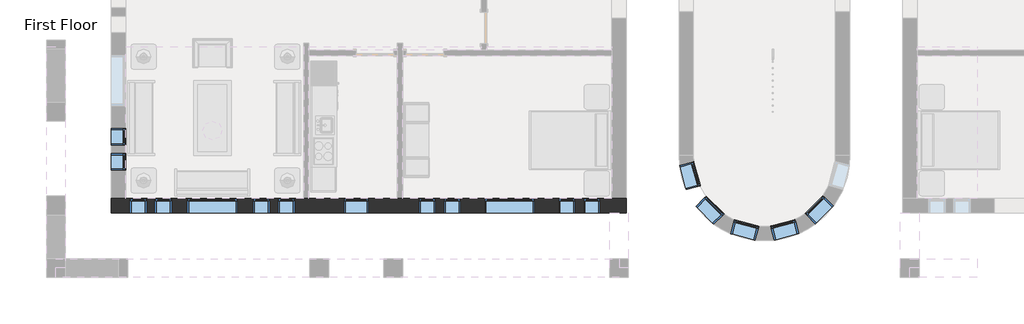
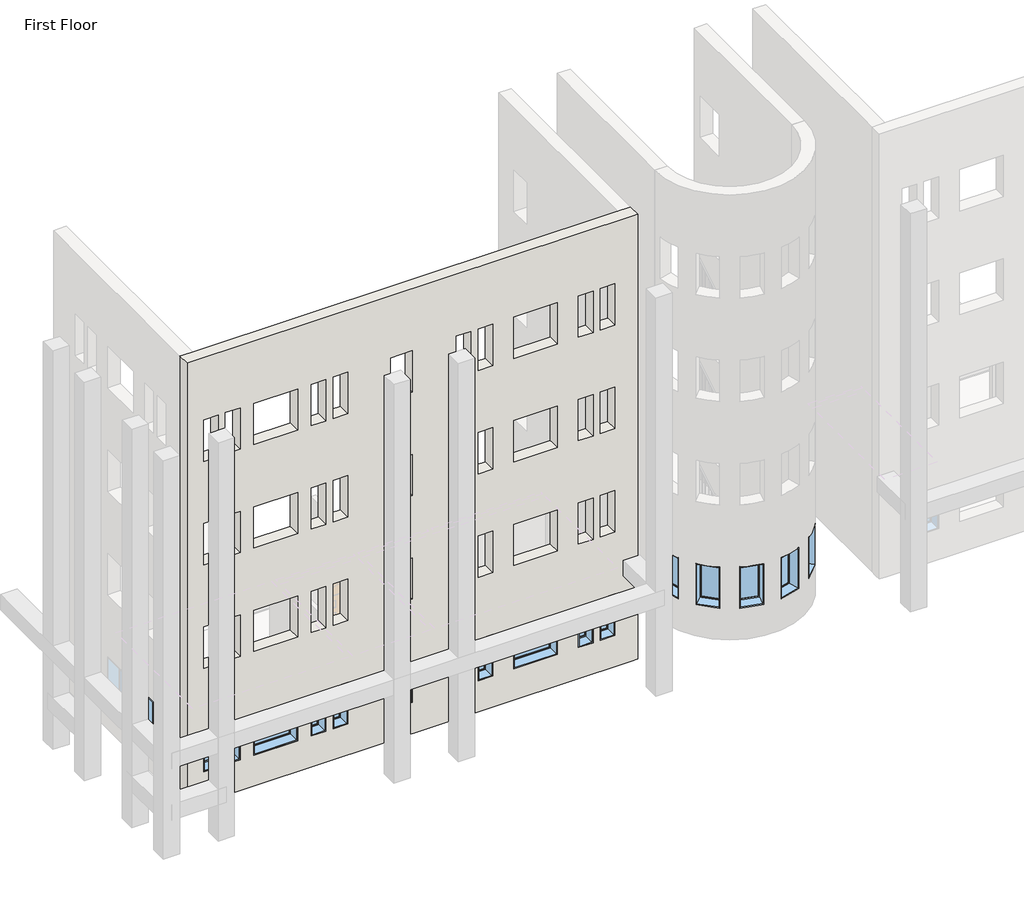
# One storey, part 1 of 21: 18 windows, 1 wall.
"""IFC4 building model written with IfcOpenShell, lengths in millimetres."""

from ifc_helpers import new_model, si_unit, origin, place, context, project, spatial, faceted_brep, transform, mapped, element, save
from components import window_da97879f, window_d61ef850, window_60baf983, window_ed80354a, window_6eb97611

model = new_model("IFC4")

# Units and contexts
model_context = context("Model", 3, world=origin())
ifc_project = project(units=[si_unit("LENGTHUNIT", "METRE", prefix="MILLI")], contexts=[model_context])

# Site, building, storey
site = spatial("IfcSite", under=ifc_project)
building = spatial("IfcBuilding", under=site)
storey = spatial("IfcBuildingStorey", under=building, Name="First Floor", Elevation=0.0)

# Wall
placement = place(None, origin())
element("IfcWall", 1, ObjectType="Exterior - Brick on Mtl. Stud", at=placement, inside=storey, context=model_context, shape_type="Brep", body=[
    faceted_brep([(-18300.6714563, -33878.3558133, 13106.4), (-18653.0964563, -33878.3558133, 13106.4), (-30492.6714563, -33878.3558133, 13106.4), (-30845.0964563, -33878.3558133, 13106.4), (-30845.0964563, -34230.7808133, 13106.4), (-18300.6714563, -34230.7808133, 13106.4), (-18300.6714563, -33878.3558133, 0.0), (-18487.9964563, -33878.3558133, 0.0), (-18653.0964563, -33878.3558133, 0.0), (-23747.3839563, -33878.3558133, 0.0), (-23874.3839563, -33878.3558133, 0.0), (-26033.3839563, -33878.3558133, 0.0), (-26160.3839563, -33878.3558133, 0.0), (-30492.6714563, -33878.3558133, 0.0), (-30657.7714563, -33878.3558133, 0.0), (-30845.0964563, -33878.3558133, 0.0), (-29779.8839563, -33878.3558133, 8229.6), (-29779.8839563, -33878.3558133, 7010.4), (-29373.4839563, -33878.3558133, 7010.4), (-29373.4839563, -33878.3558133, 8229.6), (-30389.4839563, -33878.3558133, 8229.6), (-30389.4839563, -33878.3558133, 7010.4), (-29983.0839563, -33878.3558133, 7010.4), (-29983.0839563, -33878.3558133, 8229.6), (-26985.8839563, -33878.3558133, 8229.6), (-27392.2839563, -33878.3558133, 8229.6), (-27392.2839563, -33878.3558133, 7010.4), (-26985.8839563, -33878.3558133, 7010.4), (-26376.2839563, -33878.3558133, 8229.6), (-26782.6839563, -33878.3558133, 8229.6), (-26782.6839563, -33878.3558133, 7010.4), (-26376.2839563, -33878.3558133, 7010.4), (-22744.0839563, -33878.3558133, 8229.6), (-22744.0839563, -33878.3558133, 7010.4), (-22337.6839563, -33878.3558133, 7010.4), (-22337.6839563, -33878.3558133, 8229.6), (-23353.6839563, -33878.3558133, 8229.6), (-23353.6839563, -33878.3558133, 7010.4), (-22947.2839563, -33878.3558133, 7010.4), (-22947.2839563, -33878.3558133, 8229.6), (-19543.6839563, -33878.3558133, 8229.6), (-19950.0839563, -33878.3558133, 8229.6), (-19950.0839563, -33878.3558133, 7010.4), (-19543.6839563, -33878.3558133, 7010.4), (-18934.0839563, -33878.3558133, 8229.6), (-19340.4839563, -33878.3558133, 8229.6), (-19340.4839563, -33878.3558133, 7010.4), (-18934.0839563, -33878.3558133, 7010.4), (-27773.2839563, -33878.3558133, 8229.6), (-28992.4839563, -33878.3558133, 8229.6), (-28992.4839563, -33878.3558133, 7010.4), (-27773.2839563, -33878.3558133, 7010.4), (-20534.2839563, -33878.3558133, 8229.6), (-21753.4839563, -33878.3558133, 8229.6), (-21753.4839563, -33878.3558133, 7010.4), (-20534.2839563, -33878.3558133, 7010.4), (-24572.8839563, -33878.3558133, 8229.6), (-25182.4839563, -33878.3558133, 8229.6), (-25182.4839563, -33878.3558133, 7010.4), (-24572.8839563, -33878.3558133, 7010.4), (-29779.8839563, -33878.3558133, 5181.6), (-29779.8839563, -33878.3558133, 3962.4), (-29373.4839563, -33878.3558133, 3962.4), (-29373.4839563, -33878.3558133, 5181.6), (-30389.4839563, -33878.3558133, 5181.6), (-30389.4839563, -33878.3558133, 3962.4), (-29983.0839563, -33878.3558133, 3962.4), (-29983.0839563, -33878.3558133, 5181.6), (-26985.8839563, -33878.3558133, 5181.6), (-27392.2839563, -33878.3558133, 5181.6), (-27392.2839563, -33878.3558133, 3962.4), (-26985.8839563, -33878.3558133, 3962.4), (-26376.2839563, -33878.3558133, 5181.6), (-26782.6839563, -33878.3558133, 5181.6), (-26782.6839563, -33878.3558133, 3962.4), (-26376.2839563, -33878.3558133, 3962.4), (-22744.0839563, -33878.3558133, 5181.6), (-22744.0839563, -33878.3558133, 3962.4), (-22337.6839563, -33878.3558133, 3962.4), (-22337.6839563, -33878.3558133, 5181.6), (-23353.6839563, -33878.3558133, 5181.6), (-23353.6839563, -33878.3558133, 3962.4), (-22947.2839563, -33878.3558133, 3962.4), (-22947.2839563, -33878.3558133, 5181.6), (-19543.6839563, -33878.3558133, 5181.6), (-19950.0839563, -33878.3558133, 5181.6), (-19950.0839563, -33878.3558133, 3962.4), (-19543.6839563, -33878.3558133, 3962.4), (-18934.0839563, -33878.3558133, 5181.6), (-19340.4839563, -33878.3558133, 5181.6), (-19340.4839563, -33878.3558133, 3962.4), (-18934.0839563, -33878.3558133, 3962.4), (-27773.2839563, -33878.3558133, 5181.6), (-28992.4839563, -33878.3558133, 5181.6), (-28992.4839563, -33878.3558133, 3962.4), (-27773.2839563, -33878.3558133, 3962.4), (-20534.2839563, -33878.3558133, 5181.6), (-21753.4839563, -33878.3558133, 5181.6), (-21753.4839563, -33878.3558133, 3962.4), (-20534.2839563, -33878.3558133, 3962.4), (-24572.8839563, -33878.3558133, 5181.6), (-25182.4839563, -33878.3558133, 5181.6), (-25182.4839563, -33878.3558133, 3962.4), (-24572.8839563, -33878.3558133, 3962.4), (-29779.8839563, -33878.3558133, 11277.6), (-29779.8839563, -33878.3558133, 10058.4), (-29373.4839563, -33878.3558133, 10058.4), (-29373.4839563, -33878.3558133, 11277.6), (-30389.4839563, -33878.3558133, 11277.6), (-30389.4839563, -33878.3558133, 10058.4), (-29983.0839563, -33878.3558133, 10058.4), (-29983.0839563, -33878.3558133, 11277.6), (-26985.8839563, -33878.3558133, 11277.6), (-27392.2839563, -33878.3558133, 11277.6), (-27392.2839563, -33878.3558133, 10058.4), (-26985.8839563, -33878.3558133, 10058.4), (-26376.2839563, -33878.3558133, 11277.6), (-26782.6839563, -33878.3558133, 11277.6), (-26782.6839563, -33878.3558133, 10058.4), (-26376.2839563, -33878.3558133, 10058.4), (-22744.0839563, -33878.3558133, 11277.6), (-22744.0839563, -33878.3558133, 10058.4), (-22337.6839563, -33878.3558133, 10058.4), (-22337.6839563, -33878.3558133, 11277.6), (-23353.6839563, -33878.3558133, 11277.6), (-23353.6839563, -33878.3558133, 10058.4), (-22947.2839563, -33878.3558133, 10058.4), (-22947.2839563, -33878.3558133, 11277.6), (-19543.6839563, -33878.3558133, 11277.6), (-19950.0839563, -33878.3558133, 11277.6), (-19950.0839563, -33878.3558133, 10058.4), (-19543.6839563, -33878.3558133, 10058.4), (-18934.0839563, -33878.3558133, 11277.6), (-19340.4839563, -33878.3558133, 11277.6), (-19340.4839563, -33878.3558133, 10058.4), (-18934.0839563, -33878.3558133, 10058.4), (-27773.2839563, -33878.3558133, 11277.6), (-28992.4839563, -33878.3558133, 11277.6), (-28992.4839563, -33878.3558133, 10058.4), (-27773.2839563, -33878.3558133, 10058.4), (-20534.2839563, -33878.3558133, 11277.6), (-21753.4839563, -33878.3558133, 11277.6), (-21753.4839563, -33878.3558133, 10058.4), (-20534.2839563, -33878.3558133, 10058.4), (-24572.8839563, -33878.3558133, 11277.6), (-25182.4839563, -33878.3558133, 11277.6), (-25182.4839563, -33878.3558133, 10058.4), (-24572.8839563, -33878.3558133, 10058.4), (-29779.8839563, -33878.3558133, 2133.6), (-29779.8839563, -33878.3558133, 914.4), (-29373.4839563, -33878.3558133, 914.4), (-29373.4839563, -33878.3558133, 2133.6), (-30389.4839563, -33878.3558133, 2133.6), (-30389.4839563, -33878.3558133, 914.4), (-29983.0839563, -33878.3558133, 914.4), (-29983.0839563, -33878.3558133, 2133.6), (-26985.8839563, -33878.3558133, 2133.6), (-27392.2839563, -33878.3558133, 2133.6), (-27392.2839563, -33878.3558133, 914.4), (-26985.8839563, -33878.3558133, 914.4), (-26376.2839563, -33878.3558133, 2133.6), (-26782.6839563, -33878.3558133, 2133.6), (-26782.6839563, -33878.3558133, 914.4), (-26376.2839563, -33878.3558133, 914.4), (-22744.0839563, -33878.3558133, 2133.6), (-22744.0839563, -33878.3558133, 914.4), (-22337.6839563, -33878.3558133, 914.4), (-22337.6839563, -33878.3558133, 2133.6), (-23353.6839563, -33878.3558133, 2133.6), (-23353.6839563, -33878.3558133, 914.4), (-22947.2839563, -33878.3558133, 914.4), (-22947.2839563, -33878.3558133, 2133.6), (-19543.6839563, -33878.3558133, 2133.6), (-19950.0839563, -33878.3558133, 2133.6), (-19950.0839563, -33878.3558133, 914.4), (-19543.6839563, -33878.3558133, 914.4), (-18934.0839563, -33878.3558133, 2133.6), (-19340.4839563, -33878.3558133, 2133.6), (-19340.4839563, -33878.3558133, 914.4), (-18934.0839563, -33878.3558133, 914.4), (-27773.2839563, -33878.3558133, 2133.6), (-28992.4839563, -33878.3558133, 2133.6), (-28992.4839563, -33878.3558133, 914.4), (-27773.2839563, -33878.3558133, 914.4), (-20534.2839563, -33878.3558133, 2133.6), (-21753.4839563, -33878.3558133, 2133.6), (-21753.4839563, -33878.3558133, 914.4), (-20534.2839563, -33878.3558133, 914.4), (-24572.8839563, -33878.3558133, 2133.6), (-25182.4839563, -33878.3558133, 2133.6), (-25182.4839563, -33878.3558133, 914.4), (-24572.8839563, -33878.3558133, 914.4), (-18300.6714563, -34230.7808133, 0.0), (-30845.0964563, -34230.7808133, 0.0), (-30657.7714563, -34230.7808133, 0.0), (-18487.9964563, -34230.7808133, 0.0), (-29779.8839563, -34230.7808133, 8229.6), (-29373.4839563, -34230.7808133, 8229.6), (-29373.4839563, -34230.7808133, 7010.4), (-29779.8839563, -34230.7808133, 7010.4), (-30389.4839563, -34230.7808133, 8229.6), (-29983.0839563, -34230.7808133, 8229.6), (-29983.0839563, -34230.7808133, 7010.4), (-30389.4839563, -34230.7808133, 7010.4), (-26985.8839563, -34230.7808133, 8229.6), (-26985.8839563, -34230.7808133, 7010.4), (-27392.2839563, -34230.7808133, 7010.4), (-27392.2839563, -34230.7808133, 8229.6), (-26376.2839563, -34230.7808133, 8229.6), (-26376.2839563, -34230.7808133, 7010.4), (-26782.6839563, -34230.7808133, 7010.4), (-26782.6839563, -34230.7808133, 8229.6), (-22744.0839563, -34230.7808133, 8229.6), (-22337.6839563, -34230.7808133, 8229.6), (-22337.6839563, -34230.7808133, 7010.4), (-22744.0839563, -34230.7808133, 7010.4), (-23353.6839563, -34230.7808133, 8229.6), (-22947.2839563, -34230.7808133, 8229.6), (-22947.2839563, -34230.7808133, 7010.4), (-23353.6839563, -34230.7808133, 7010.4), (-19543.6839563, -34230.7808133, 8229.6), (-19543.6839563, -34230.7808133, 7010.4), (-19950.0839563, -34230.7808133, 7010.4), (-19950.0839563, -34230.7808133, 8229.6), (-18934.0839563, -34230.7808133, 8229.6), (-18934.0839563, -34230.7808133, 7010.4), (-19340.4839563, -34230.7808133, 7010.4), (-19340.4839563, -34230.7808133, 8229.6), (-27773.2839563, -34230.7808133, 8229.6), (-27773.2839563, -34230.7808133, 7010.4), (-28992.4839563, -34230.7808133, 7010.4), (-28992.4839563, -34230.7808133, 8229.6), (-20534.2839563, -34230.7808133, 8229.6), (-20534.2839563, -34230.7808133, 7010.4), (-21753.4839563, -34230.7808133, 7010.4), (-21753.4839563, -34230.7808133, 8229.6), (-24572.8839563, -34230.7808133, 8229.6), (-24572.8839563, -34230.7808133, 7010.4), (-25182.4839563, -34230.7808133, 7010.4), (-25182.4839563, -34230.7808133, 8229.6), (-29779.8839563, -34230.7808133, 5181.6), (-29373.4839563, -34230.7808133, 5181.6), (-29373.4839563, -34230.7808133, 3962.4), (-29779.8839563, -34230.7808133, 3962.4), (-30389.4839563, -34230.7808133, 5181.6), (-29983.0839563, -34230.7808133, 5181.6), (-29983.0839563, -34230.7808133, 3962.4), (-30389.4839563, -34230.7808133, 3962.4), (-26985.8839563, -34230.7808133, 5181.6), (-26985.8839563, -34230.7808133, 3962.4), (-27392.2839563, -34230.7808133, 3962.4), (-27392.2839563, -34230.7808133, 5181.6), (-26376.2839563, -34230.7808133, 5181.6), (-26376.2839563, -34230.7808133, 3962.4), (-26782.6839563, -34230.7808133, 3962.4), (-26782.6839563, -34230.7808133, 5181.6), (-22744.0839563, -34230.7808133, 5181.6), (-22337.6839563, -34230.7808133, 5181.6), (-22337.6839563, -34230.7808133, 3962.4), (-22744.0839563, -34230.7808133, 3962.4), (-23353.6839563, -34230.7808133, 5181.6), (-22947.2839563, -34230.7808133, 5181.6), (-22947.2839563, -34230.7808133, 3962.4), (-23353.6839563, -34230.7808133, 3962.4), (-19543.6839563, -34230.7808133, 5181.6), (-19543.6839563, -34230.7808133, 3962.4), (-19950.0839563, -34230.7808133, 3962.4), (-19950.0839563, -34230.7808133, 5181.6), (-18934.0839563, -34230.7808133, 5181.6), (-18934.0839563, -34230.7808133, 3962.4), (-19340.4839563, -34230.7808133, 3962.4), (-19340.4839563, -34230.7808133, 5181.6), (-27773.2839563, -34230.7808133, 5181.6), (-27773.2839563, -34230.7808133, 3962.4), (-28992.4839563, -34230.7808133, 3962.4), (-28992.4839563, -34230.7808133, 5181.6), (-20534.2839563, -34230.7808133, 5181.6), (-20534.2839563, -34230.7808133, 3962.4), (-21753.4839563, -34230.7808133, 3962.4), (-21753.4839563, -34230.7808133, 5181.6), (-24572.8839563, -34230.7808133, 5181.6), (-24572.8839563, -34230.7808133, 3962.4), (-25182.4839563, -34230.7808133, 3962.4), (-25182.4839563, -34230.7808133, 5181.6), (-29779.8839563, -34230.7808133, 11277.6), (-29373.4839563, -34230.7808133, 11277.6), (-29373.4839563, -34230.7808133, 10058.4), (-29779.8839563, -34230.7808133, 10058.4), (-30389.4839563, -34230.7808133, 11277.6), (-29983.0839563, -34230.7808133, 11277.6), (-29983.0839563, -34230.7808133, 10058.4), (-30389.4839563, -34230.7808133, 10058.4), (-26985.8839563, -34230.7808133, 11277.6), (-26985.8839563, -34230.7808133, 10058.4), (-27392.2839563, -34230.7808133, 10058.4), (-27392.2839563, -34230.7808133, 11277.6), (-26376.2839563, -34230.7808133, 11277.6), (-26376.2839563, -34230.7808133, 10058.4), (-26782.6839563, -34230.7808133, 10058.4), (-26782.6839563, -34230.7808133, 11277.6), (-22744.0839563, -34230.7808133, 11277.6), (-22337.6839563, -34230.7808133, 11277.6), (-22337.6839563, -34230.7808133, 10058.4), (-22744.0839563, -34230.7808133, 10058.4), (-23353.6839563, -34230.7808133, 11277.6), (-22947.2839563, -34230.7808133, 11277.6), (-22947.2839563, -34230.7808133, 10058.4), (-23353.6839563, -34230.7808133, 10058.4), (-19543.6839563, -34230.7808133, 11277.6), (-19543.6839563, -34230.7808133, 10058.4), (-19950.0839563, -34230.7808133, 10058.4), (-19950.0839563, -34230.7808133, 11277.6), (-18934.0839563, -34230.7808133, 11277.6), (-18934.0839563, -34230.7808133, 10058.4), (-19340.4839563, -34230.7808133, 10058.4), (-19340.4839563, -34230.7808133, 11277.6), (-27773.2839563, -34230.7808133, 11277.6), (-27773.2839563, -34230.7808133, 10058.4), (-28992.4839563, -34230.7808133, 10058.4), (-28992.4839563, -34230.7808133, 11277.6), (-20534.2839563, -34230.7808133, 11277.6), (-20534.2839563, -34230.7808133, 10058.4), (-21753.4839563, -34230.7808133, 10058.4), (-21753.4839563, -34230.7808133, 11277.6), (-24572.8839563, -34230.7808133, 11277.6), (-24572.8839563, -34230.7808133, 10058.4), (-25182.4839563, -34230.7808133, 10058.4), (-25182.4839563, -34230.7808133, 11277.6), (-29779.8839563, -34230.7808133, 2133.6), (-29373.4839563, -34230.7808133, 2133.6), (-29373.4839563, -34230.7808133, 914.4), (-29779.8839563, -34230.7808133, 914.4), (-30389.4839563, -34230.7808133, 2133.6), (-29983.0839563, -34230.7808133, 2133.6), (-29983.0839563, -34230.7808133, 914.4), (-30389.4839563, -34230.7808133, 914.4), (-26985.8839563, -34230.7808133, 2133.6), (-26985.8839563, -34230.7808133, 914.4), (-27392.2839563, -34230.7808133, 914.4), (-27392.2839563, -34230.7808133, 2133.6), (-26376.2839563, -34230.7808133, 2133.6), (-26376.2839563, -34230.7808133, 914.4), (-26782.6839563, -34230.7808133, 914.4), (-26782.6839563, -34230.7808133, 2133.6), (-22744.0839563, -34230.7808133, 2133.6), (-22337.6839563, -34230.7808133, 2133.6), (-22337.6839563, -34230.7808133, 914.4), (-22744.0839563, -34230.7808133, 914.4), (-23353.6839563, -34230.7808133, 2133.6), (-22947.2839563, -34230.7808133, 2133.6), (-22947.2839563, -34230.7808133, 914.4), (-23353.6839563, -34230.7808133, 914.4), (-19543.6839563, -34230.7808133, 2133.6), (-19543.6839563, -34230.7808133, 914.4), (-19950.0839563, -34230.7808133, 914.4), (-19950.0839563, -34230.7808133, 2133.6), (-18934.0839563, -34230.7808133, 2133.6), (-18934.0839563, -34230.7808133, 914.4), (-19340.4839563, -34230.7808133, 914.4), (-19340.4839563, -34230.7808133, 2133.6), (-27773.2839563, -34230.7808133, 2133.6), (-27773.2839563, -34230.7808133, 914.4), (-28992.4839563, -34230.7808133, 914.4), (-28992.4839563, -34230.7808133, 2133.6), (-20534.2839563, -34230.7808133, 2133.6), (-20534.2839563, -34230.7808133, 914.4), (-21753.4839563, -34230.7808133, 914.4), (-21753.4839563, -34230.7808133, 2133.6), (-24572.8839563, -34230.7808133, 2133.6), (-24572.8839563, -34230.7808133, 914.4), (-25182.4839563, -34230.7808133, 914.4), (-25182.4839563, -34230.7808133, 2133.6), (-30845.0964563, -34043.4558133, 0.0), (-18300.6714563, -34043.4558133, 0.0), (-18487.9964563, -34043.4558133, 0.0), (-30657.7714563, -34043.4558133, 0.0)], [[[0, 1, 2, 3, 4, 5]], [[6, 7, 8, 9, 10, 11, 12, 13, 14, 15, 3, 2, 1, 0], [16, 17, 18, 19], [20, 21, 22, 23], [24, 25, 26, 27], [28, 29, 30, 31], [32, 33, 34, 35], [36, 37, 38, 39], [40, 41, 42, 43], [44, 45, 46, 47], [48, 49, 50, 51], [52, 53, 54, 55], [56, 57, 58, 59], [60, 61, 62, 63], [64, 65, 66, 67], [68, 69, 70, 71], [72, 73, 74, 75], [76, 77, 78, 79], [80, 81, 82, 83], [84, 85, 86, 87], [88, 89, 90, 91], [92, 93, 94, 95], [96, 97, 98, 99], [100, 101, 102, 103], [104, 105, 106, 107], [108, 109, 110, 111], [112, 113, 114, 115], [116, 117, 118, 119], [120, 121, 122, 123], [124, 125, 126, 127], [128, 129, 130, 131], [132, 133, 134, 135], [136, 137, 138, 139], [140, 141, 142, 143], [144, 145, 146, 147], [148, 149, 150, 151], [152, 153, 154, 155], [156, 157, 158, 159], [160, 161, 162, 163], [164, 165, 166, 167], [168, 169, 170, 171], [172, 173, 174, 175], [176, 177, 178, 179], [180, 181, 182, 183], [184, 185, 186, 187], [188, 189, 190, 191]], [[192, 5, 4, 193, 194, 195], [196, 197, 198, 199], [200, 201, 202, 203], [204, 205, 206, 207], [208, 209, 210, 211], [212, 213, 214, 215], [216, 217, 218, 219], [220, 221, 222, 223], [224, 225, 226, 227], [228, 229, 230, 231], [232, 233, 234, 235], [236, 237, 238, 239], [240, 241, 242, 243], [244, 245, 246, 247], [248, 249, 250, 251], [252, 253, 254, 255], [256, 257, 258, 259], [260, 261, 262, 263], [264, 265, 266, 267], [268, 269, 270, 271], [272, 273, 274, 275], [276, 277, 278, 279], [280, 281, 282, 283], [284, 285, 286, 287], [288, 289, 290, 291], [292, 293, 294, 295], [296, 297, 298, 299], [300, 301, 302, 303], [304, 305, 306, 307], [308, 309, 310, 311], [312, 313, 314, 315], [316, 317, 318, 319], [320, 321, 322, 323], [324, 325, 326, 327], [328, 329, 330, 331], [332, 333, 334, 335], [336, 337, 338, 339], [340, 341, 342, 343], [344, 345, 346, 347], [348, 349, 350, 351], [352, 353, 354, 355], [356, 357, 358, 359], [360, 361, 362, 363], [364, 365, 366, 367], [368, 369, 370, 371]], [[3, 15, 372, 193, 4]], [[6, 0, 5, 192, 373]], [[7, 6, 373, 374]], [[373, 192, 195, 374]], [[15, 14, 375, 372]], [[195, 194, 375, 374]], [[194, 193, 372, 375]], [[14, 13, 12, 11, 10, 9, 8, 7, 374, 375]], [[17, 16, 196, 199]], [[18, 17, 199, 198]], [[19, 18, 198, 197]], [[16, 19, 197, 196]], [[21, 20, 200, 203]], [[22, 21, 203, 202]], [[23, 22, 202, 201]], [[20, 23, 201, 200]], [[205, 204, 24, 27]], [[206, 205, 27, 26]], [[207, 206, 26, 25]], [[204, 207, 25, 24]], [[209, 208, 28, 31]], [[210, 209, 31, 30]], [[211, 210, 30, 29]], [[208, 211, 29, 28]], [[33, 32, 212, 215]], [[34, 33, 215, 214]], [[35, 34, 214, 213]], [[32, 35, 213, 212]], [[37, 36, 216, 219]], [[38, 37, 219, 218]], [[39, 38, 218, 217]], [[36, 39, 217, 216]], [[221, 220, 40, 43]], [[222, 221, 43, 42]], [[223, 222, 42, 41]], [[220, 223, 41, 40]], [[225, 224, 44, 47]], [[226, 225, 47, 46]], [[227, 226, 46, 45]], [[224, 227, 45, 44]], [[229, 228, 48, 51]], [[230, 229, 51, 50]], [[231, 230, 50, 49]], [[228, 231, 49, 48]], [[233, 232, 52, 55]], [[234, 233, 55, 54]], [[235, 234, 54, 53]], [[232, 235, 53, 52]], [[237, 236, 56, 59]], [[238, 237, 59, 58]], [[239, 238, 58, 57]], [[236, 239, 57, 56]], [[61, 60, 240, 243]], [[62, 61, 243, 242]], [[63, 62, 242, 241]], [[60, 63, 241, 240]], [[65, 64, 244, 247]], [[66, 65, 247, 246]], [[67, 66, 246, 245]], [[64, 67, 245, 244]], [[249, 248, 68, 71]], [[250, 249, 71, 70]], [[251, 250, 70, 69]], [[248, 251, 69, 68]], [[253, 252, 72, 75]], [[254, 253, 75, 74]], [[255, 254, 74, 73]], [[252, 255, 73, 72]], [[77, 76, 256, 259]], [[78, 77, 259, 258]], [[79, 78, 258, 257]], [[76, 79, 257, 256]], [[81, 80, 260, 263]], [[82, 81, 263, 262]], [[83, 82, 262, 261]], [[80, 83, 261, 260]], [[265, 264, 84, 87]], [[266, 265, 87, 86]], [[267, 266, 86, 85]], [[264, 267, 85, 84]], [[269, 268, 88, 91]], [[270, 269, 91, 90]], [[271, 270, 90, 89]], [[268, 271, 89, 88]], [[273, 272, 92, 95]], [[274, 273, 95, 94]], [[275, 274, 94, 93]], [[272, 275, 93, 92]], [[277, 276, 96, 99]], [[278, 277, 99, 98]], [[279, 278, 98, 97]], [[276, 279, 97, 96]], [[281, 280, 100, 103]], [[282, 281, 103, 102]], [[283, 282, 102, 101]], [[280, 283, 101, 100]], [[105, 104, 284, 287]], [[106, 105, 287, 286]], [[107, 106, 286, 285]], [[104, 107, 285, 284]], [[109, 108, 288, 291]], [[110, 109, 291, 290]], [[111, 110, 290, 289]], [[108, 111, 289, 288]], [[293, 292, 112, 115]], [[294, 293, 115, 114]], [[295, 294, 114, 113]], [[292, 295, 113, 112]], [[297, 296, 116, 119]], [[298, 297, 119, 118]], [[299, 298, 118, 117]], [[296, 299, 117, 116]], [[121, 120, 300, 303]], [[122, 121, 303, 302]], [[123, 122, 302, 301]], [[120, 123, 301, 300]], [[125, 124, 304, 307]], [[126, 125, 307, 306]], [[127, 126, 306, 305]], [[124, 127, 305, 304]], [[309, 308, 128, 131]], [[310, 309, 131, 130]], [[311, 310, 130, 129]], [[308, 311, 129, 128]], [[313, 312, 132, 135]], [[314, 313, 135, 134]], [[315, 314, 134, 133]], [[312, 315, 133, 132]], [[317, 316, 136, 139]], [[318, 317, 139, 138]], [[319, 318, 138, 137]], [[316, 319, 137, 136]], [[321, 320, 140, 143]], [[322, 321, 143, 142]], [[323, 322, 142, 141]], [[320, 323, 141, 140]], [[325, 324, 144, 147]], [[326, 325, 147, 146]], [[327, 326, 146, 145]], [[324, 327, 145, 144]], [[149, 148, 328, 331]], [[150, 149, 331, 330]], [[151, 150, 330, 329]], [[148, 151, 329, 328]], [[153, 152, 332, 335]], [[154, 153, 335, 334]], [[155, 154, 334, 333]], [[152, 155, 333, 332]], [[337, 336, 156, 159]], [[338, 337, 159, 158]], [[339, 338, 158, 157]], [[336, 339, 157, 156]], [[341, 340, 160, 163]], [[342, 341, 163, 162]], [[343, 342, 162, 161]], [[340, 343, 161, 160]], [[165, 164, 344, 347]], [[166, 165, 347, 346]], [[167, 166, 346, 345]], [[164, 167, 345, 344]], [[169, 168, 348, 351]], [[170, 169, 351, 350]], [[171, 170, 350, 349]], [[168, 171, 349, 348]], [[353, 352, 172, 175]], [[354, 353, 175, 174]], [[355, 354, 174, 173]], [[352, 355, 173, 172]], [[357, 356, 176, 179]], [[358, 357, 179, 178]], [[359, 358, 178, 177]], [[356, 359, 177, 176]], [[361, 360, 180, 183]], [[362, 361, 183, 182]], [[363, 362, 182, 181]], [[360, 363, 181, 180]], [[365, 364, 184, 187]], [[366, 365, 187, 186]], [[367, 366, 186, 185]], [[364, 367, 185, 184]], [[369, 368, 188, 191]], [[370, 369, 191, 190]], [[371, 370, 190, 189]], [[368, 371, 189, 188]]]),
])

# Windows
window_shape = window_da97879f(model_context)
element("IfcWindow", 2, ObjectType="Fixed : 16\" x 48\"", at=placement, inside=storey, context=model_context, shape_type="MappedRepresentation", body=[
    mapped(window_shape, transform((-19099.1839563, -34054.5683133, 0.0), x_axis=(1.0, 0.0, 0.0), y_axis=(0.0, 1.0, 0.0), z_axis=(0.0, 0.0, 1.0))),
])
element("IfcWindow", 3, ObjectType="Fixed : 16\" x 48\"", at=placement, inside=storey, context=model_context, shape_type="MappedRepresentation", body=[
    mapped(window_shape, transform((-19708.7839563, -34054.5683133, 0.0), x_axis=(1.0, 0.0, 0.0), y_axis=(0.0, 1.0, 0.0), z_axis=(0.0, 0.0, 1.0))),
])
element("IfcWindow", 4, ObjectType="Fixed : 16\" x 48\"", at=placement, inside=storey, context=model_context, shape_type="MappedRepresentation", body=[
    mapped(window_shape, transform((-26541.3839563, -34054.5683133, 0.0), x_axis=(1.0, 0.0, 0.0), y_axis=(0.0, 1.0, 0.0), z_axis=(0.0, 0.0, 1.0))),
])
element("IfcWindow", 5, ObjectType="Fixed : 16\" x 48\"", at=placement, inside=storey, context=model_context, shape_type="MappedRepresentation", body=[
    mapped(window_shape, transform((-27150.9839563, -34054.5683133, 0.0), x_axis=(1.0, 0.0, 0.0), y_axis=(0.0, 1.0, 0.0), z_axis=(0.0, 0.0, 1.0))),
])
element("IfcWindow", 6, ObjectType="Fixed : 16\" x 48\"", at=placement, inside=storey, context=model_context, shape_type="MappedRepresentation", body=[
    mapped(window_shape, transform((-30668.8839563, -33025.8683133, 0.0), x_axis=(0.0, -1.0, 0.0), y_axis=(1.0, 0.0, 0.0), z_axis=(0.0, 0.0, 1.0))),
])
element("IfcWindow", 7, ObjectType="Fixed : 16\" x 48\"", at=placement, inside=storey, context=model_context, shape_type="MappedRepresentation", body=[
    mapped(window_shape, transform((-30668.8839563, -32416.2683133, 0.0), x_axis=(0.0, -1.0, 0.0), y_axis=(1.0, 0.0, 0.0), z_axis=(0.0, 0.0, 1.0))),
])
window_2_shape = window_d61ef850(model_context)
element("IfcWindow", 8, ObjectType="Fixed : 16\" x 48\"", at=placement, inside=storey, context=model_context, shape_type="MappedRepresentation", body=[
    mapped(window_2_shape, transform((-23188.5839563, -34054.5683133, 0.0), x_axis=(-1.0, 0.0, 0.0), y_axis=(0.0, -1.0, 0.0), z_axis=(0.0, 0.0, 1.0))),
])
element("IfcWindow", 9, ObjectType="Fixed : 16\" x 48\"", at=placement, inside=storey, context=model_context, shape_type="MappedRepresentation", body=[
    mapped(window_2_shape, transform((-22578.9839563, -34054.5683133, 0.0), x_axis=(-1.0, 0.0, 0.0), y_axis=(0.0, -1.0, 0.0), z_axis=(0.0, 0.0, 1.0))),
])
element("IfcWindow", 10, ObjectType="Fixed : 16\" x 48\"", at=placement, inside=storey, context=model_context, shape_type="MappedRepresentation", body=[
    mapped(window_2_shape, transform((-30224.3839563, -34054.5683133, 0.0), x_axis=(-1.0, 0.0, 0.0), y_axis=(0.0, -1.0, 0.0), z_axis=(0.0, 0.0, 1.0))),
])
element("IfcWindow", 11, ObjectType="Fixed : 16\" x 48\"", at=placement, inside=storey, context=model_context, shape_type="MappedRepresentation", body=[
    mapped(window_2_shape, transform((-29614.7839563, -34054.5683133, 0.0), x_axis=(-1.0, 0.0, 0.0), y_axis=(0.0, -1.0, 0.0), z_axis=(0.0, 0.0, 1.0))),
])
window_3_shape = window_60baf983(model_context)
element("IfcWindow", 12, ObjectType="Fixed : 24\" x 48\"", at=placement, inside=storey, context=model_context, shape_type="MappedRepresentation", body=[
    mapped(window_3_shape, transform((-24839.5839563, -34054.5683133, 0.0), x_axis=(1.0, 0.0, 0.0), y_axis=(0.0, 1.0, 0.0), z_axis=(0.0, 0.0, 1.0))),
])
window_4_shape = window_ed80354a(model_context)
element("IfcWindow", 13, ObjectType="Fixed : 24\" x 48\"", at=placement, inside=storey, context=model_context, shape_type="MappedRepresentation", body=[
    mapped(window_4_shape, transform((-16757.5848795, -33290.1635131, 0.0), x_axis=(-0.2617614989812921, 0.9651325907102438, 0.0), y_axis=(-0.9651325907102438, -0.2617614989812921, 0.0), z_axis=(0.0, 0.0, 1.0))),
])
element("IfcWindow", 14, ObjectType="Fixed : 24\" x 48\"", at=placement, inside=storey, context=model_context, shape_type="MappedRepresentation", body=[
    mapped(window_4_shape, transform((-16286.0301771, -34140.4392215, 0.0), x_axis=(-0.7092584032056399, 0.7049485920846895, 0.0), y_axis=(-0.7049485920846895, -0.7092584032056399, 0.0), z_axis=(0.0, 0.0, 1.0))),
])
element("IfcWindow", 15, ObjectType="Fixed : 24\" x 48\"", at=placement, inside=storey, context=model_context, shape_type="MappedRepresentation", body=[
    mapped(window_4_shape, transform((-15452.5139714, -34641.0222339, 0.0), x_axis=(-0.9667100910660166, 0.2558741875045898, 0.0), y_axis=(-0.2558741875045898, -0.9667100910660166, 0.0), z_axis=(0.0, 0.0, 1.0))),
])
element("IfcWindow", 16, ObjectType="Fixed : 24\" x 48\"", at=placement, inside=storey, context=model_context, shape_type="MappedRepresentation", body=[
    mapped(window_4_shape, transform((-14480.3762565, -34657.7817365, 0.0), x_axis=(-0.9651325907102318, -0.2617614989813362, 0.0), y_axis=(0.2617614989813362, -0.9651325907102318, 0.0), z_axis=(0.0, 0.0, 1.0))),
])
element("IfcWindow", 17, ObjectType="Fixed : 24\" x 48\"", at=placement, inside=storey, context=model_context, shape_type="MappedRepresentation", body=[
    mapped(window_4_shape, transform((-13630.1005482, -34186.2270341, 0.0), x_axis=(-0.7049485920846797, -0.7092584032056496, 0.0), y_axis=(0.7092584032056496, -0.7049485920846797, 0.0), z_axis=(0.0, 0.0, 1.0))),
])
window_5_shape = window_6eb97611(model_context)
element("IfcWindow", 18, ObjectType="Fixed : 48\" x 48\"", at=placement, inside=storey, context=model_context, shape_type="MappedRepresentation", body=[
    mapped(window_5_shape, transform((-21105.7839563, -34054.5683133, 0.0), x_axis=(1.0, 0.0, 0.0), y_axis=(0.0, 1.0, 0.0), z_axis=(0.0, 0.0, 1.0))),
])
element("IfcWindow", 19, ObjectType="Fixed : 48\" x 48\"", at=placement, inside=storey, context=model_context, shape_type="MappedRepresentation", body=[
    mapped(window_5_shape, transform((-28344.7839563, -34054.5683133, 0.0), x_axis=(1.0, 0.0, 0.0), y_axis=(0.0, 1.0, 0.0), z_axis=(0.0, 0.0, 1.0))),
])

save(model, "model.ifc")
